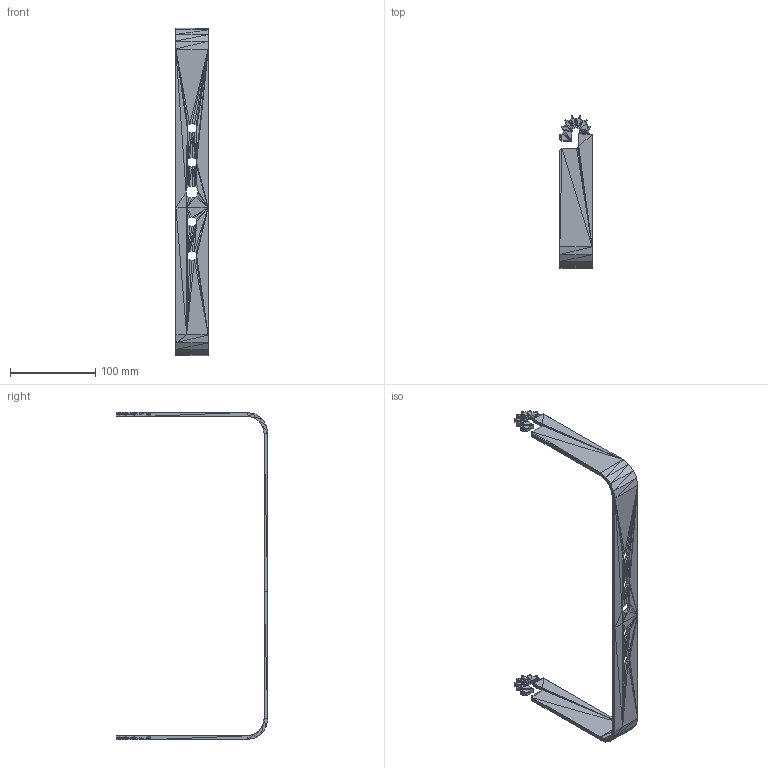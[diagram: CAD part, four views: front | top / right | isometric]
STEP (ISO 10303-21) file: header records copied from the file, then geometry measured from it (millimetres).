
FILE_DESCRIPTION((''),'2;1');
FILE_NAME('062192', '2025-07-29T08:08:31', (''), (''), 'ImageToStl.com STEP Converter','', '');
FILE_SCHEMA(('AUTOMOTIVE_DESIGN_CC2'));
Length unit declared in the file: metre
Products named in the file (1): product0
Bounding box: 38 x 178.43 x 385 mm (x, y, z)
Surface area: 58892.9 mm2 (no closed solid volume)
Topology: 0 solids, 1208 shells, 1208 faces, 3624 edges, 600 vertices
Faces by surface type: plane 1208
Entity records: 27804 total; most frequent: DIRECTION 6042, ORIENTED_EDGE 3624, EDGE_CURVE 3624, LINE 3624, VECTOR 3624, AXIS2_PLACEMENT_3D 1209, FACE_SURFACE 1208, PLANE 1208
